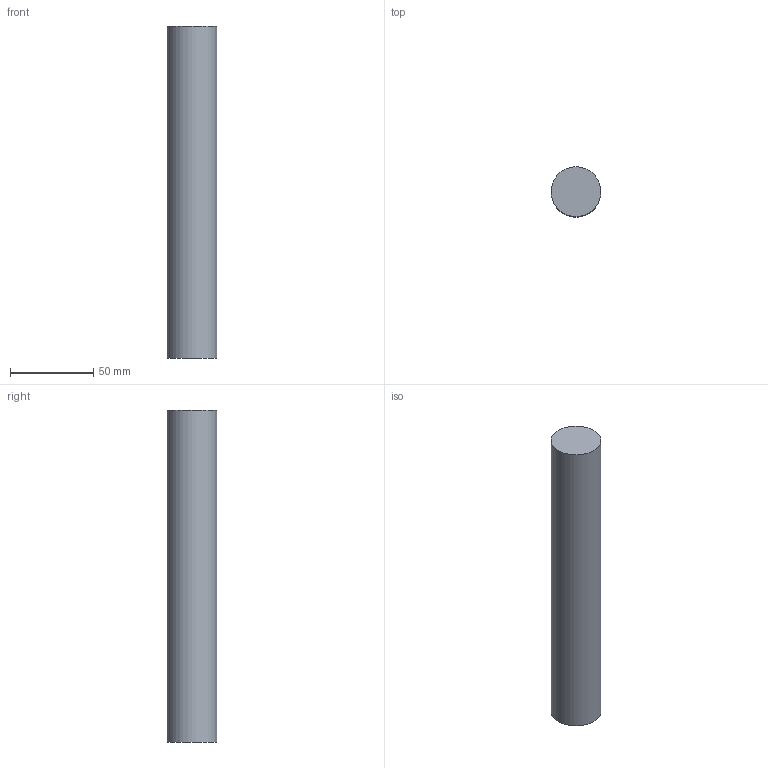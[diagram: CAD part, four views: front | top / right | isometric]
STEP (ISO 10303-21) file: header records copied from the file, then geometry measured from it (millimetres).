
FILE_DESCRIPTION(/* description */ (''),/* implementation_level */ '2;1');
FILE_NAME(/* name */ 'D:\_Vault\Workspace\Projektordner\Sensoren\PSENoptIII\Kundendaten\H304905_Prüfstab_Handschutz_Kundendaten.stp',/* time_stamp */ '2016-06-30T08:09:18+02:00',/* author */ ('jeberle'),/* organization */ (''),/* preprocessor_version */ 'ST-DEVELOPER v16.5',/* originating_system */ 'Autodesk Inventor 2017',/* authorisation */ '');
FILE_SCHEMA (('AUTOMOTIVE_DESIGN { 1 0 10303 214 3 1 1 }'));
Length unit declared in the file: millimetre
Products named in the file (1): H304905
Bounding box: 30 x 30.01 x 200 mm (x, y, z)
Volume: 141372.1 mm3; surface area: 20264.2 mm2
Topology: 1 solids, 1 shells, 38 faces, 93 edges, 62 vertices
Faces by surface type: plane 28, cylinder 6, bspline 4
Full cylindrical faces by diameter (mm): 30 x1
Entity records: 1255 total; most frequent: CARTESIAN_POINT 313, ORIENTED_EDGE 184, DIRECTION 180, EDGE_CURVE 92, VERTEX_POINT 62, AXIS2_PLACEMENT_3D 61, LINE 58, VECTOR 58
